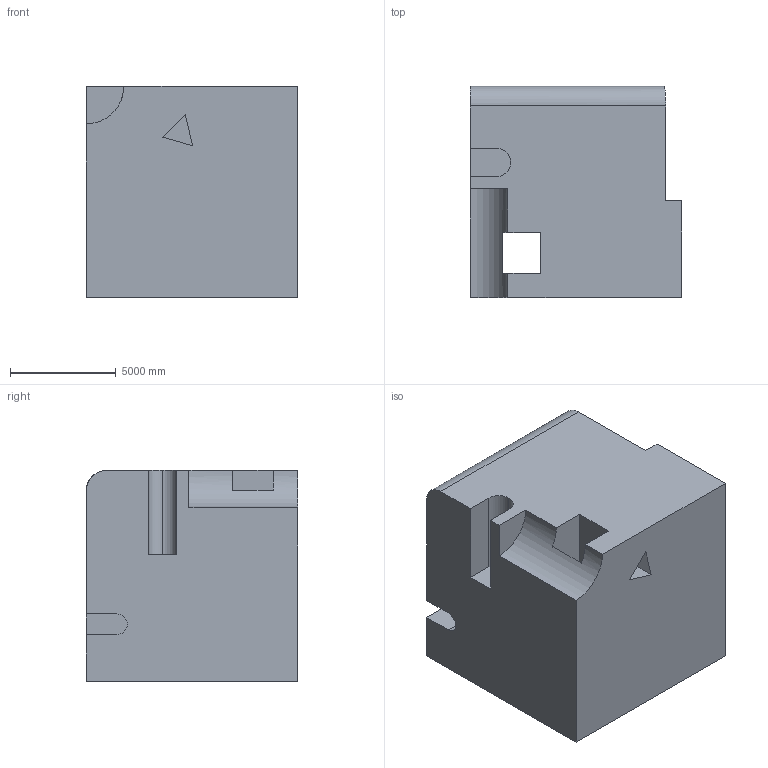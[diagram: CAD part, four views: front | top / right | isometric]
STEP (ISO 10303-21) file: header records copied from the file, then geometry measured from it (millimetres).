
FILE_DESCRIPTION (( 'STEP AP203' ), '1' );
FILE_NAME ('185.STEP', '2022-09-06T15:25:19', ( 'user' ), ( '' ), 'SwSTEP 2.0', 'SolidWorks 2021', '' );
FILE_SCHEMA (( 'CONFIG_CONTROL_DESIGN' ));
Length unit declared in the file: centimetre
Products named in the file (1): 185
Bounding box: 10000 x 10000 x 10000 mm (x, y, z)
Volume: 855967939371.8 mm3; surface area: 746390569.1 mm2
Topology: 1 solids, 1 shells, 39 faces, 102 edges, 68 vertices
Faces by surface type: plane 30, cylinder 9
Entity records: 1272 total; most frequent: CARTESIAN_POINT 225, ORIENTED_EDGE 204, DIRECTION 192, EDGE_CURVE 102, VECTOR 82, LINE 82, VERTEX_POINT 68, AXIS2_PLACEMENT_3D 55
